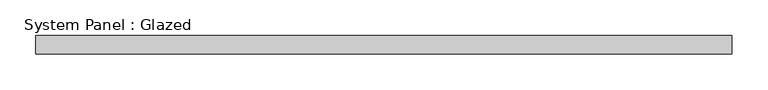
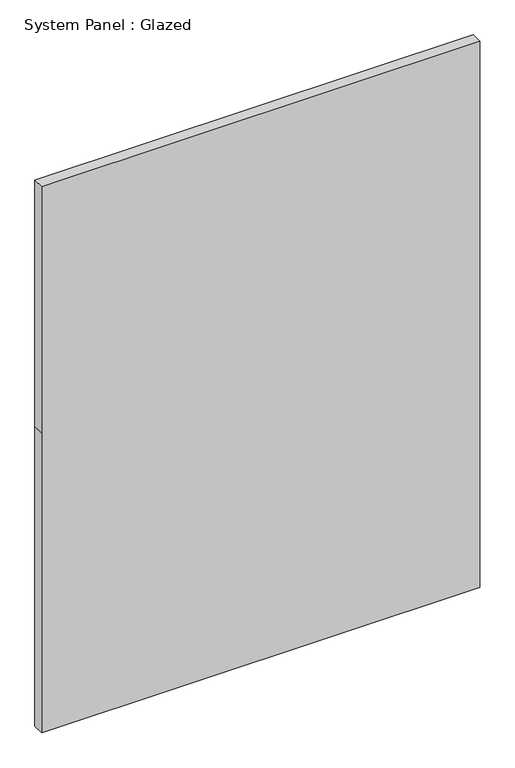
"""IFC4 building model written with IfcOpenShell, lengths in millimetres: plate geometry, System Panel : Glazed."""

from ifc_helpers import new_model, si_unit, frame, origin, place, context, project, spatial, polyline, outline, extrude, source, transform, mapped, element, save


def system_panel_glazed_5209d243(model_context):
    return source(origin(), model_context, "Body", "SweptSolid", [
        extrude(outline(polyline([(0.0, -485.775), (0.0, 485.775), (702.2026365, 485.775), (1280.0526365, 485.775), (1280.0526365, -485.775), (702.2026365, -485.775), (0.0, -485.775)])), frame((0.0, -44.45, 0.0), z_axis=(0.0, 1.0, 0.0), x_axis=(0.0, 0.0, 1.0)), (0.0, 0.0, 1.0), 25.4),
    ])


if __name__ == "__main__":
    model = new_model("IFC4")
    model_context = context("Model", 3, world=origin())
    ifc_project = project(units=[si_unit("LENGTHUNIT", "METRE", prefix="MILLI")], contexts=[model_context])
    site = spatial("IfcSite", under=ifc_project)
    building = spatial("IfcBuilding", under=site)
    placement = place(None, origin())
    system_panel_glazed_shape = system_panel_glazed_5209d243(model_context)
    element("IfcPlate", 1, ObjectType="System Panel : Glazed", at=placement, inside=building, context=model_context, shape_type="MappedRepresentation", body=[
        mapped(system_panel_glazed_shape, transform((0.0, 0.0, 0.0), x_axis=(1.0, 0.0, 0.0), y_axis=(0.0, 1.0, 0.0), z_axis=(0.0, 0.0, 1.0))),
    ])
    save(model, "model.ifc")
